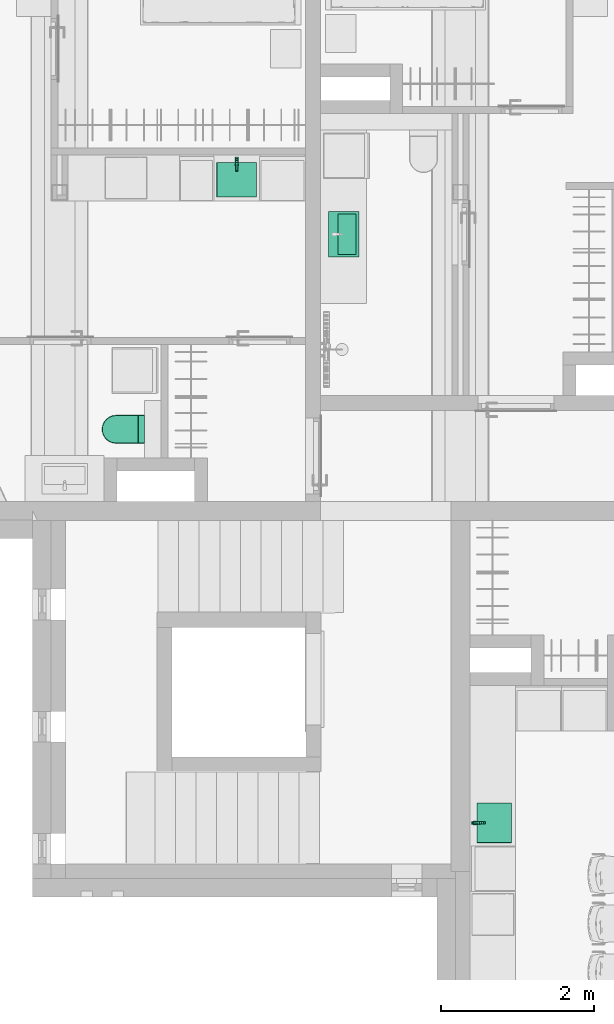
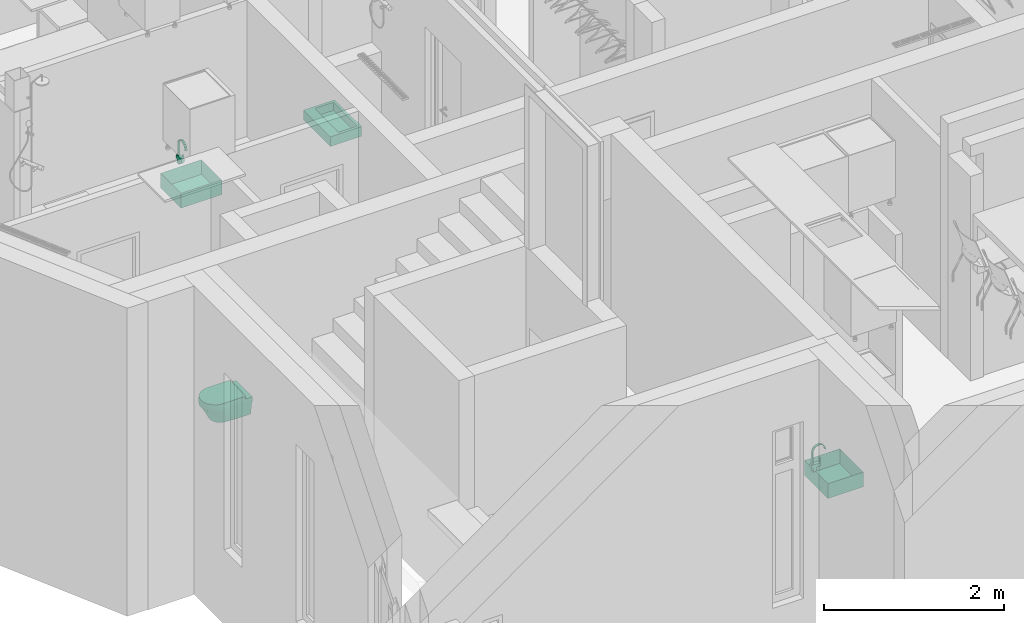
# One storey, part 53 of 125: 6 flow terminals.
"""IFC2X3 building model written with IfcOpenShell, lengths in millimetres."""

import ifcopenshell
import ifcopenshell.guid

model = None  # the IFC model being written
_history = None  # IfcOwnerHistory: only IFC2X3 demands one
_inside = {}  # id of a spatial element -> (the spatial element, [elements in it])
_under = {}  # id of a project, library or spatial element -> (it, [spatial elements below it])
_declared = {}  # id of a project -> (the project, [libraries it declares])
_typed = {}  # id of a type object -> (the type object, [elements of that type])
_made_of = {}  # id of a material, layer set ... -> (it, [elements and type objects made of it])


def new_model(schema):
    """Start an empty IFC model of exactly this schema.

    Asked for "IFC4X3", IfcOpenShell would pick the latest addendum, in which some entities
    have other attributes; the version numbers below select the first issue.
    IFC2X3 requires an IfcOwnerHistory on every rooted entity: one is made here for all.
    """
    global model, _history
    if schema == "IFC4X3":
        model = ifcopenshell.file(schema_version=(4, 3, 0, 0))
    else:
        model = ifcopenshell.file(schema=schema)
    _inside.clear()
    _under.clear()
    _declared.clear()
    _typed.clear()
    _made_of.clear()
    _history = None
    if model.schema == "IFC2X3":
        org = make("IfcOrganization", Name="unknown")
        user = make(
            "IfcPersonAndOrganization",
            ThePerson=make("IfcPerson", FamilyName="unknown"),
            TheOrganization=org,
        )
        app = make(
            "IfcApplication",
            ApplicationDeveloper=org,
            Version="unknown",
            ApplicationFullName="unknown",
            ApplicationIdentifier="unknown",
        )
        _history = make(
            "IfcOwnerHistory",
            OwningUser=user,
            OwningApplication=app,
            ChangeAction="ADDED",
            CreationDate=0,
        )
    return model


def make(cls, **values):
    """One entity of the class cls with the attributes given. An attribute that is None is left unset."""
    return model.create_entity(
        cls, **{name: value for name, value in values.items() if value is not None}
    )


def entity(cls, *values):
    """Any entity or typed value of the class cls, its attributes in the order of the schema. None: left unset."""
    e = model.create_entity(cls)
    for i, value in enumerate(values):
        if value is not None:
            e[i] = value
    return e


def rooted(cls, **values):
    """An entity with a GlobalId (a new one), such as an element, a storey or a relation."""
    return make(cls, GlobalId=ifcopenshell.guid.new(), OwnerHistory=_history, **values)


def si_unit(unit_type, name, prefix=None):
    """IfcSIUnit, for example si_unit("LENGTHUNIT", "METRE", prefix="MILLI")."""
    return make("IfcSIUnit", UnitType=unit_type, Prefix=prefix, Name=name)


def converted_unit(unit_type, name, factor, base, dimensions=None, offset=None):
    """IfcConversionBasedUnit, such as the inch: factor (a typed value) times the base unit."""
    return make(
        "IfcConversionBasedUnit"
        if offset is None
        else "IfcConversionBasedUnitWithOffset",
        ConversionOffset=offset,
        Dimensions=None
        if dimensions is None
        else entity("IfcDimensionalExponents", *dimensions),
        UnitType=unit_type,
        Name=name,
        ConversionFactor=make(
            "IfcMeasureWithUnit", ValueComponent=factor, UnitComponent=base
        ),
    )


def assignment(units):
    """IfcUnitAssignment: the units of a project."""
    return None if units is None else make("IfcUnitAssignment", Units=units)


def point(xyz):
    """IfcCartesianPoint."""
    return None if xyz is None else make("IfcCartesianPoint", Coordinates=xyz)


def direction(xyz):
    """IfcDirection."""
    return None if xyz is None else make("IfcDirection", DirectionRatios=xyz)


def frame(location, z_axis=None, x_axis=None):
    """IfcAxis2Placement3D, a coordinate frame: its origin and axes. An axis left out is left unset."""
    return make(
        "IfcAxis2Placement3D",
        Location=point(location),
        Axis=direction(z_axis),
        RefDirection=direction(x_axis),
    )


def origin():
    """The frame at (0, 0, 0) with its axes left unset."""
    return frame((0.0, 0.0, 0.0))


def place(relative_to, where):
    """IfcLocalPlacement: puts the frame where relative to a parent placement (None: the world)."""
    return make(
        "IfcLocalPlacement", PlacementRelTo=relative_to, RelativePlacement=where
    )


def context(
    kind, dimensions, precision=None, world=None, true_north=None, identifier=None
):
    """IfcGeometricRepresentationContext, for example the 3D "Model" context."""
    return make(
        "IfcGeometricRepresentationContext",
        ContextIdentifier=identifier,
        ContextType=kind,
        CoordinateSpaceDimension=dimensions,
        Precision=precision,
        WorldCoordinateSystem=world,
        TrueNorth=true_north,
    )


def subcontext(parent, identifier, kind, view, scale=None):
    """IfcGeometricRepresentationSubContext, for example "Body" below "Model"."""
    return make(
        "IfcGeometricRepresentationSubContext",
        ContextIdentifier=identifier,
        ContextType=kind,
        ParentContext=parent,
        TargetScale=scale,
        TargetView=view,
    )


def project(units=None, contexts=None):
    """IfcProject with its units and contexts."""
    return rooted(
        "IfcProject",
        Name="project",
        RepresentationContexts=contexts,
        UnitsInContext=assignment(units),
    )


def spatial(cls, under=None, at=None, **own):
    """A site, building, storey or space (cls), placed at a placement, below another one or the project."""
    s = rooted(cls, ObjectPlacement=at, **own)
    if under is not None:
        _under.setdefault(under.id(), (under, []))[1].append(s)
    return s


def faces_of(points, faces, orient=None, outer=None):
    """IfcFace entities. A face is a list of loops; a loop is a list of indices into points, from 0.

    orient and outer hold one flag for each loop. By default every Orientation is true, the
    first loop of a face is its IfcFaceOuterBound and the others are IfcFaceBound.
    """
    made = []
    for i, loops in enumerate(faces):
        bounds = []
        for j, loop in enumerate(loops):
            is_outer = j == 0 if outer is None else outer[i][j]
            bounds.append(
                make(
                    "IfcFaceOuterBound" if is_outer else "IfcFaceBound",
                    Bound=make("IfcPolyLoop", Polygon=[points[k] for k in loop]),
                    Orientation=True if orient is None else orient[i][j],
                )
            )
        made.append(make("IfcFace", Bounds=bounds))
    return made


def faceted_brep(points, faces, orient=None, outer=None, voids=None):
    """IfcFacetedBrep: a solid bounded by flat faces; with voids (closed shells), ...WithVoids."""
    shared = [point(p) for p in points]
    hull = make("IfcClosedShell", CfsFaces=faces_of(shared, faces, orient, outer))
    if voids is None:
        return make("IfcFacetedBrep", Outer=hull)
    return make(
        "IfcFacetedBrepWithVoids",
        Outer=hull,
        Voids=[
            make(cls, CfsFaces=faces_of(shared, fs, o, b)) for cls, fs, o, b in voids
        ],
    )


def shape(context_of_items, identifier, shape_type, items):
    """IfcShapeRepresentation: the items that make up one representation, for example the "Body"."""
    return make(
        "IfcShapeRepresentation",
        ContextOfItems=context_of_items,
        RepresentationIdentifier=identifier,
        RepresentationType=shape_type,
        Items=items,
    )


def source(mapping_origin, context_of_items, identifier, shape_type, items):
    """IfcRepresentationMap: a shape defined once, which mapped items show again and again."""
    return make(
        "IfcRepresentationMap",
        MappingOrigin=mapping_origin,
        MappedRepresentation=shape(context_of_items, identifier, shape_type, items),
    )


def transform(
    local_origin,
    x_axis=None,
    y_axis=None,
    z_axis=None,
    scale=None,
    scale2=None,
    scale3=None,
    uniform=True,
):
    """IfcCartesianTransformationOperator3D, or its non-uniform kind. x_axis, y_axis, z_axis: its Axis1, 2, 3."""
    if uniform:
        return make(
            "IfcCartesianTransformationOperator3D",
            Axis1=direction(x_axis),
            Axis2=direction(y_axis),
            LocalOrigin=point(local_origin),
            Scale=scale,
            Axis3=direction(z_axis),
        )
    return make(
        "IfcCartesianTransformationOperator3DnonUniform",
        Axis1=direction(x_axis),
        Axis2=direction(y_axis),
        LocalOrigin=point(local_origin),
        Scale=scale,
        Axis3=direction(z_axis),
        Scale2=scale2,
        Scale3=scale3,
    )


def mapped(mapping_source, mapping_target):
    """IfcMappedItem: shows the shape of a source again, moved by a transform."""
    return make(
        "IfcMappedItem", MappingSource=mapping_source, MappingTarget=mapping_target
    )


def material(Name=None, Category=None):
    """IfcMaterial."""
    return make("IfcMaterial", Name=Name, Category=Category)


def made_of(thing, what):
    """Note that an element or type object is made of a material, layer set ...; save() writes the relation."""
    if what is not None:
        _made_of.setdefault(what.id(), (what, []))[1].append(thing)
    return thing


def type_object(cls, material=None, **own):
    """A type object (cls), such as IfcWallType, which elements share."""
    return made_of(rooted(cls, **own), material)


def type_shapes(of_type, sources):
    """Give a type object the sources (RepresentationMaps) that its elements show as mapped items."""
    of_type.RepresentationMaps = sources


def element(
    cls,
    number,
    at=None,
    inside=None,
    cuts=None,
    type_object=None,
    material=None,
    context=None,
    identifier="Body",
    shape_type=None,
    held_by="IfcProductDefinitionShape",
    body=None,
    shapes=None,
    **own,
):
    """One element of the class cls, such as IfcWall. Its Tag is "e" and its number.

    at: its placement. inside: the storey or other place that contains it. cuts: it is an
    opening in that element (IfcRelVoidsElement). A single representation is given by context,
    identifier, shape_type and body (its items); several are given by shapes. held_by: the class
    of the entity that holds the representations. save() writes the other relations.
    """
    e = rooted(cls, Tag="e%d" % number, ObjectPlacement=at, **own)
    if body is not None:
        shapes = [shape(context, identifier, shape_type, body)]
    if shapes is not None:
        e.Representation = make(held_by, Representations=shapes)
    if inside is not None:
        _inside.setdefault(inside.id(), (inside, []))[1].append(e)
    if cuts is not None:
        rooted(
            "IfcRelVoidsElement", RelatingBuildingElement=cuts, RelatedOpeningElement=e
        )
    if type_object is not None:
        _typed.setdefault(type_object.id(), (type_object, []))[1].append(e)
    return made_of(e, material)


def aggregate(whole, parts):
    """IfcRelAggregates: a whole, such as a stair, and the parts it consists of."""
    return rooted("IfcRelAggregates", RelatingObject=whole, RelatedObjects=parts)


def save(model, path):
    """Write the relations noted so far, then the file.

    IfcRelAggregates (storeys below a building ...), IfcRelContainedInSpatialStructure (elements
    in a storey), IfcRelDefinesByType, IfcRelAssociatesMaterial and IfcRelDeclares: one each for
    every whole, place, type object, material and project.
    """
    for whole, parts in _under.values():
        aggregate(whole, parts)
    for where, things in _inside.values():
        rooted(
            "IfcRelContainedInSpatialStructure",
            RelatedElements=things,
            RelatingStructure=where,
        )
    for kind, things in _typed.values():
        rooted("IfcRelDefinesByType", RelatedObjects=things, RelatingType=kind)
    for what, things in _made_of.values():
        rooted("IfcRelAssociatesMaterial", RelatedObjects=things, RelatingMaterial=what)
    for by, libraries in _declared.values():
        rooted("IfcRelDeclares", RelatingContext=by, RelatedDefinitions=libraries)
    model.write(path)


model = new_model("IFC2X3")

# Units and contexts
model_context = context("Model", 3, precision=0.01, world=origin(), true_north=direction((6.123233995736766e-17, 1.0)))
plan_context = context("Plan", 3, precision=0.01, world=origin(), true_north=direction((6.123233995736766e-17, 1.0)))
body_context = subcontext(model_context, "Body", "Model", "MODEL_VIEW")
ifc_project = project(units=[si_unit("LENGTHUNIT", "METRE", prefix="MILLI"), converted_unit("PLANEANGLEUNIT", "DEGREE", entity("IfcPlaneAngleMeasure", 0.017453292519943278), si_unit("PLANEANGLEUNIT", "RADIAN"), dimensions=[0, 0, 0, 0, 0, 0, 0]), si_unit("AREAUNIT", "SQUARE_METRE")], contexts=[model_context, plan_context])

# Site, building, storey, space
site_placement = place(None, origin())
site = spatial("IfcSite", under=ifc_project, at=site_placement, Name="Default", CompositionType="ELEMENT")
building_placement = place(site_placement, origin())
building = spatial("IfcBuilding", under=site, at=building_placement, CompositionType="ELEMENT")
storey_placement = place(building_placement, frame((0.0, 0.0, 3125.0)))
storey = spatial("IfcBuildingStorey", under=building, at=storey_placement, Name="2K", CompositionType="ELEMENT", Elevation=3125.0)
space_1_placement = place(storey_placement, origin())
space_1 = spatial("IfcSpace", under=storey, at=space_1_placement, Name="2-1.4", CompositionType="ELEMENT", InteriorOrExteriorSpace="INTERNAL")

# Flow terminal
ifc_material = material(Name="<Unnamed>")
distribution_element_type_1 = type_object("IfcDistributionElementType", Name="HR_Plumbing-fixtures_Toilet_Generic_v3:Default", material=ifc_material)
shared_shape_1 = source(origin(), body_context, "Body", "Brep", [
    faceted_brep([(185.0, 375.0, -3940.0), (185.0, 100.0, -3940.0), (184.31851652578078, 94.82361909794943, -3940.0), (182.32050807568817, 90.0, -3940.0), (179.14213562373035, 85.85786437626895, -3940.0), (175.0, 82.67949192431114, -3940.0), (170.17638090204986, 80.68148347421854, -3940.0), (165.0, 80.0, -3940.0), (-165.0, 80.0, -3940.0), (-170.17638090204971, 80.68148347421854, -3940.0), (-175.0, 82.67949192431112, -3940.0), (-179.14213562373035, 85.85786437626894, -3940.0), (-182.32050807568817, 90.0, -3940.0), (-184.31851652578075, 94.82361909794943, -3940.0), (-185.0, 100.0, -3940.0), (-185.0, 375.0, -3940.0), (-178.6962778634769, 422.8815233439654, -3940.0), (-160.21469970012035, 467.49999999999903, -3940.0), (-130.81475451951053, 505.81475451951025, -3940.0), (-92.4999999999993, 535.21469970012, -3940.0), (-47.8815233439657, 553.6962778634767, -3940.0), (0.0, 560.0, -3940.0), (47.88152334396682, 553.6962778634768, -3940.0), (92.50000000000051, 535.2146997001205, -3940.0), (130.81475451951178, 505.8147545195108, -3940.0), (160.2146997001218, 467.4999999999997, -3940.0), (178.69627786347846, 422.8815233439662, -3940.0), (165.0, 85.0, -3905.0), (168.88228567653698, 85.51111260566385, -3905.0), (172.4999999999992, 87.00961894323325, -3905.0), (175.60660171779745, 89.39339828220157, -3905.0), (177.99038105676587, 92.49999999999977, -3905.0), (179.48888739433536, 96.11771432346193, -3905.0), (180.0, 100.0, -3905.0), (180.0, 375.0, -3905.0), (173.86664873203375, 421.5874281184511, -3905.0), (155.88457268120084, 465.0, -3905.0), (127.27922061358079, 502.27922061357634, -3905.0), (90.0, 530.884572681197, -3905.0), (46.58742811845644, 548.8666487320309, -3905.0), (0.0, 555.0, -3905.0), (-46.58742811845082, 548.8666487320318, -3905.0), (-90.0, 530.8845726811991, -3905.0), (-127.27922061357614, 502.2792206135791, -3905.0), (-155.88457268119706, 465.0, -3905.0), (-173.8666487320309, 421.58742811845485, -3905.0), (-180.0, 375.0, -3905.0), (-180.0, 100.0, -3905.0), (-179.4888873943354, 96.11771432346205, -3905.0), (-177.99038105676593, 92.49999999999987, -3905.0), (-175.6066017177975, 89.39339828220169, -3905.0), (-172.49999999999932, 87.00961894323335, -3905.0), (-168.88228567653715, 85.51111260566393, -3905.0), (-165.0, 85.0, -3905.0)], [[[0, 1, 2, 3, 4, 5, 6, 7, 8, 9, 10, 11, 12, 13, 14, 15, 16, 17, 18, 19, 20, 21, 22, 23, 24, 25, 26]], [[27, 28, 29, 30, 31, 32, 33, 34, 35, 36, 37, 38, 39, 40, 41, 42, 43, 44, 45, 46, 47, 48, 49, 50, 51, 52, 53]], [[13, 48, 47, 14]], [[49, 12, 11, 50]], [[48, 13, 12, 49]], [[52, 51, 10, 9]], [[53, 52, 9, 8]], [[10, 51, 50, 11]], [[7, 27, 53, 8]], [[6, 28, 27, 7]], [[29, 5, 4, 30]], [[28, 6, 5, 29]], [[32, 31, 3, 2]], [[33, 32, 2, 1]], [[3, 31, 30, 4]], [[0, 34, 33, 1]], [[34, 0, 26, 35]], [[35, 26, 25, 36]], [[38, 37, 24, 23]], [[24, 37, 36, 25]], [[39, 38, 23, 22]], [[39, 22, 21, 40]], [[20, 41, 40, 21]], [[45, 44, 17, 16]], [[43, 18, 17, 44]], [[45, 16, 15, 46]], [[19, 42, 41, 20]], [[19, 18, 43, 42]], [[47, 46, 15, 14]]]),
    faceted_brep([(158.04963619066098, 466.24999999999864, -4000.0), (176.28146329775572, 422.2344757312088, -4000.0), (182.5000000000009, 375.0, -4000.0), (182.5000000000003, 0.0, -4000.0), (-182.49999999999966, 0.0, -4000.0), (-182.49999999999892, 375.0, -4000.0), (-176.2814632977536, 422.23447573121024, -4000.0), (-158.04963619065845, 466.25, -4000.0), (-129.04698756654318, 504.0469875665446, -4000.0), (-91.2499999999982, 533.0496361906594, -4000.0), (-47.23447573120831, 551.281463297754, -4000.0), (0.0, 557.4999999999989, -4000.0), (47.23447573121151, 551.2814632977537, -4000.0), (91.25000000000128, 533.0496361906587, -4000.0), (129.04698756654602, 504.0469875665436, -4000.0), (-176.28146329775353, 422.23447573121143, -3940.0), (-182.49999999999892, 375.0, -3940.0), (-182.49999999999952, 0.0, -3940.0), (182.50000000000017, 0.0, -3940.0), (182.50000000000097, 375.0, -3940.0), (176.2814632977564, 422.23447573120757, -3940.0), (158.04963619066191, 466.24999999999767, -3940.0), (129.04698756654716, 504.04698756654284, -3940.0), (91.25000000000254, 533.0496361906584, -3940.0), (47.23447573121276, 551.2814632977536, -3940.0), (0.0, 557.4999999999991, -3940.0), (-47.23447573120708, 551.2814632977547, -3940.0), (-91.24999999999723, 533.0496361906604, -3940.0), (-129.04698756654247, 504.0469875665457, -3940.0), (-158.0496361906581, 466.25000000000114, -3940.0), (184.3739186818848, 0.0, -3985.051993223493), (185.0, 0.0, -3970.0), (184.37391868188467, 0.0, -3954.9480067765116), (-184.37391868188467, 0.0, -3954.9480067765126), (-185.0, 0.0, -3970.0), (-184.37391868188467, 0.0, -3985.051993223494), (185.0, 375.0, -3970.0), (184.37391868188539, 375.0, -3954.9480067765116), (184.37391868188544, 375.0, -3985.051993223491), (179.22193525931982, 420.2391964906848, -3962.467496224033), (146.12425609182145, 487.1250848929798, -3987.162723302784), (112.36452390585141, 521.4362980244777, -3982.347722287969), (-24.092382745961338, 557.9998161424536, -3957.652277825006), (-70.79643453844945, 545.9177137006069, -3969.999999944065), (165.88140661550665, 456.6493815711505, -3963.605381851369), (170.61476036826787, 445.67094705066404, -3980.89777177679), (146.7703673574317, 487.6208651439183, -3969.999999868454), (112.4934291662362, 521.6042920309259, -3961.29138681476), (70.79643457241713, 545.9177136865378, -3969.9999999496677), (-170.6147602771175, 445.67094700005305, -3980.8977734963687), (-146.12425609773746, 487.12508488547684, -3987.1627233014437), (70.4847752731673, 545.1653000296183, -3987.16272333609), (24.092382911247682, 557.9998161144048, -3982.3477222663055), (-146.77036734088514, 487.62086516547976, -3969.999999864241), (-165.88140640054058, 456.6493822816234, -3963.605385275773), (24.120021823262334, 558.2097557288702, -3961.2913867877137), (-24.120022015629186, 558.20975569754, -3978.7086133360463), (180.8695297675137, 411.23491834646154, -3983.9362692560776), (-112.36452329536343, 521.4362985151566, -3957.652277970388), (-112.4934298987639, 521.6042914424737, -3978.708613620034), (-70.48477528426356, 545.1653000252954, -3987.1627233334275), (-184.3739188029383, 375.0, -3954.948008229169), (-179.2219343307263, 420.239200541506, -3962.4674984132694), (-185.0, 375.0, -3970.0000029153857), (-184.3739185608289, 375.0, -3985.0519946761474), (-181.40133300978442, 410.0856400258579, -3979.2616608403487)], [[[0, 1, 2, 3, 4, 5, 6, 7, 8, 9, 10, 11, 12, 13, 14]], [[15, 16, 17, 18, 19, 20, 21, 22, 23, 24, 25, 26, 27, 28, 29]], [[4, 3, 30, 31, 32, 18, 17, 33, 34, 35]], [[32, 31, 36, 37]], [[32, 37, 19, 18]], [[30, 3, 2, 38]], [[30, 38, 36, 31]], [[37, 39, 20]], [[40, 14, 41]], [[20, 19, 37]], [[26, 42, 43]], [[44, 45, 46]], [[47, 41, 48]], [[48, 24, 23]], [[7, 49, 50]], [[47, 22, 46]], [[51, 12, 52]], [[21, 46, 22]], [[53, 49, 54]], [[55, 52, 56]], [[48, 52, 55]], [[36, 57, 39]], [[28, 58, 53]], [[11, 10, 56]], [[57, 38, 2]], [[37, 36, 39]], [[59, 58, 43]], [[7, 6, 49]], [[14, 13, 41]], [[12, 51, 13]], [[45, 57, 1]], [[14, 40, 0]], [[45, 1, 0]], [[47, 46, 41]], [[39, 57, 45]], [[24, 48, 55]], [[56, 42, 55]], [[26, 43, 27]], [[39, 45, 44]], [[58, 28, 27]], [[9, 59, 60]], [[27, 43, 58]], [[28, 53, 29]], [[61, 16, 15]], [[11, 56, 52]], [[61, 62, 63]], [[47, 48, 23]], [[41, 51, 48]], [[15, 54, 62]], [[42, 25, 55]], [[62, 61, 15]], [[64, 63, 65]], [[56, 60, 43]], [[55, 25, 24]], [[50, 53, 59]], [[60, 10, 9]], [[47, 23, 22]], [[62, 49, 65]], [[7, 50, 8]], [[49, 62, 54]], [[64, 6, 5]], [[42, 26, 25]], [[58, 59, 53]], [[49, 6, 65]], [[44, 21, 20]], [[11, 52, 12]], [[42, 56, 43]], [[46, 45, 40]], [[59, 9, 8]], [[39, 44, 20]], [[44, 46, 21]], [[54, 29, 53]], [[29, 54, 15]], [[13, 51, 41]], [[48, 51, 52]], [[0, 40, 45]], [[46, 40, 41]], [[10, 60, 56]], [[43, 60, 59]], [[8, 50, 59]], [[53, 50, 49]], [[1, 57, 2]], [[36, 38, 57]], [[62, 65, 63]], [[64, 65, 6]], [[16, 61, 33]], [[16, 33, 17]], [[33, 61, 34]], [[61, 63, 34]], [[64, 5, 4]], [[64, 35, 63]], [[35, 64, 4]], [[63, 35, 34]]]),
    faceted_brep([(85.0, 522.224318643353, -4000.0), (43.99923766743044, 539.2073904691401, -4000.0), (0.0, 545.0, -4000.0), (-43.99923766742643, 539.2073904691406, -4000.0), (-85.0, 522.2243186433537, -4000.0), (-120.20815280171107, 495.2081528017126, -4000.0), (-147.22431864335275, 460.0, -4000.0), (-164.20739046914, 418.9992376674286, -4000.0), (-170.0, 375.0, -4000.0), (-170.0, 0.0, -4000.0), (170.0, 0.0, -4000.0), (170.0, 375.0, -4000.0), (164.2073904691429, 418.99923766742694, -4000.0), (147.224318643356, 460.0, -4000.0), (120.20815280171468, 495.20815280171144, -4000.0), (140.0, 0.0, -4200.0), (-140.0, 0.0, -4200.0), (-140.0, 150.0, -4200.0), (-138.62980634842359, 195.25787346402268, -4200.0), (-137.25961308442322, 240.51573412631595, -4200.0), (-133.15405183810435, 285.6078202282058, -4200.0), (-129.04849039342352, 330.69990850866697, -4200.0), (-121.54313718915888, 361.12229181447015, -4200.0), (-106.97640292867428, 388.86507440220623, -4200.0), (-86.1945818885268, 412.3164634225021, -4200.0), (-60.40505081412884, 430.11398627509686, -4200.0), (-31.106123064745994, 441.2236471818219, -4200.0), (0.0, 445.0, -4200.0), (31.106123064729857, 441.2236471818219, -4200.0), (60.40505081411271, 430.1139862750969, -4200.0), (86.19458188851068, 412.3164634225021, -4200.0), (106.97640292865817, 388.86507440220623, -4200.0), (121.54313718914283, 361.12229181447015, -4200.0), (129.04849039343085, 330.69990850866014, -4200.0), (133.15405231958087, 285.60781494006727, -4200.0), (137.25961308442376, 240.51573412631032, -4200.0), (138.629806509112, 195.25786815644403, -4200.0), (140.0, 150.0, -4200.0), (150.60660238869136, 229.54951791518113, -4129.289317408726), (160.30330119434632, 302.2747589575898, -4064.6446587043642), (155.52145288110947, 359.3375502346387, -4070.710688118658), (143.52703751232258, 346.36235827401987, -4129.289311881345), (155.38792293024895, 359.1931016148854, -4071.362825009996), (136.07910358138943, 407.7451780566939, -4100.000018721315), (144.4628484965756, 378.65444268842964, -4105.413468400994), (88.6637225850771, 465.93257853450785, -4100.000001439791), (116.08235687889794, 439.8543237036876, -4100.000003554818), (-146.76963007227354, 381.58655237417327, -4094.5865394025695), (-136.0791098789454, 407.7451788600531, -4100.000000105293), (-143.66056550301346, 346.5068047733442, -4128.637184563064), (-156.76351819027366, 360.6811785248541, -4064.644658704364), (55.573859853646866, 484.30716171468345, -4100.000000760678), (18.928354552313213, 493.79904274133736, -4099.999999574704), (-55.573860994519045, 484.3071615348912, -4100.00000022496), (-18.928355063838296, 493.79904230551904, -4100.000000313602), (-143.52703638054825, 346.36235704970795, -4129.289317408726), (-88.66372427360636, 465.9325779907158, -4100.000000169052), (-116.08235986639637, 439.8543221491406, -4100.000000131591), (-159.3933967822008, 295.45047586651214, -4070.7106881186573), (-150.6066032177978, 229.54952413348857, -4129.2893118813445)], [[[0, 1, 2, 3, 4, 5, 6, 7, 8, 9, 10, 11, 12, 13, 14]], [[15, 16, 17, 18, 19, 20, 21, 22, 23, 24, 25, 26, 27, 28, 29, 30, 31, 32, 33, 34, 35, 36, 37]], [[10, 15, 37, 38, 39, 11]], [[36, 35, 39, 38, 37]], [[39, 40, 11]], [[35, 40, 39]], [[34, 33, 41, 42, 40, 35]], [[13, 12, 43]], [[32, 44, 33]], [[32, 31, 43]], [[44, 12, 42]], [[45, 30, 29]], [[45, 46, 30]], [[22, 47, 48]], [[30, 46, 31]], [[47, 49, 50, 8]], [[28, 51, 29]], [[46, 43, 31]], [[43, 44, 32]], [[12, 11, 40, 42]], [[51, 45, 29]], [[14, 45, 0]], [[13, 43, 46]], [[28, 27, 52]], [[14, 46, 45]], [[45, 51, 0]], [[0, 51, 1]], [[1, 51, 52]], [[52, 51, 28]], [[52, 2, 1]], [[13, 46, 14]], [[53, 26, 25]], [[2, 54, 3]], [[22, 21, 55, 49]], [[24, 56, 25]], [[48, 23, 22]], [[5, 57, 6]], [[48, 57, 23]], [[24, 23, 57]], [[47, 7, 48]], [[8, 7, 47]], [[26, 54, 27]], [[3, 54, 53]], [[56, 53, 25]], [[2, 52, 54]], [[57, 56, 24]], [[4, 53, 56]], [[22, 49, 47]], [[5, 56, 57]], [[57, 48, 6]], [[4, 56, 5]], [[53, 54, 26]], [[3, 53, 4]], [[6, 48, 7]], [[12, 44, 43]], [[44, 42, 41, 33]], [[54, 52, 27]], [[20, 19, 50, 49, 55, 21]], [[50, 58, 8]], [[19, 58, 50]], [[18, 17, 59, 58, 19]], [[9, 8, 58, 59, 17, 16]], [[9, 16, 15, 10]]]),
])
type_shapes(distribution_element_type_1, [shared_shape_1])
flow_terminal_1_placement = place(space_1_placement, frame((1039.9935349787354, 7595.0, 4340.0), z_axis=(0.0, 0.0, 1.0), x_axis=(0.0, 1.0, 0.0)))
element("IfcFlowTerminal", 1, at=flow_terminal_1_placement, inside=space_1, type_object=distribution_element_type_1, material=ifc_material, Name="HR_Plumbing-fixtures_Toilet_Generic_v3:Default", ObjectType="HR_Plumbing-fixtures_Toilet_Generic_v3:Default", context=body_context, shape_type="MappedRepresentation", body=[
    mapped(shared_shape_1, transform((0.0, 0.0, 0.0), scale=1.0)),
])

# Space
space_2_placement = place(storey_placement, origin())
space_2 = spatial("IfcSpace", under=storey, at=space_2_placement, Name="2-1.2", CompositionType="ELEMENT", InteriorOrExteriorSpace="INTERNAL")

# Flow terminal
distribution_element_type_2 = type_object("IfcDistributionElementType", Name="HR_Plumbing-fixtures_Sink_Generic_Kitchen_v1:Default", material=ifc_material)
shared_shape_2 = source(origin(), body_context, "Body", "Brep", [
    faceted_brep([(260.0, -50.0, -3825.0), (260.0, -500.0, -3825.0), (-260.0, -500.0, -3825.0), (-260.0, -50.0, -3825.0), (262.0, -48.0, -3825.0), (-262.0, -48.0, -3825.0), (-262.0, -502.0, -3825.0), (262.0, -502.0, -3825.0), (262.0, -48.0, -4025.0), (262.0, -502.0, -4025.0), (-262.0, -502.0, -4025.0), (-262.0, -48.0, -4025.0), (260.0, -50.0, -4023.0), (260.0, -500.0, -4023.0), (-260.0, -500.0, -4023.0), (-260.0, -50.0, -4023.0)], [[[0, 1, 2, 3], [4, 5, 6, 7]], [[8, 9, 10, 11]], [[1, 0, 12, 13]], [[2, 1, 13, 14]], [[3, 2, 14, 15]], [[0, 3, 15, 12]], [[5, 4, 8, 11]], [[6, 5, 11, 10]], [[7, 6, 10, 9]], [[4, 7, 9, 8]], [[13, 12, 15, 14]]], outer=[[False, True], [True], [True], [True], [True], [True], [True], [True], [True], [True], [True]]),
])
type_shapes(distribution_element_type_2, [shared_shape_2])
flow_terminal_2_placement = place(space_2_placement, frame((2244.993534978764, 10587.0, 4695.0), z_axis=(0.0, 0.0, 1.0), x_axis=(-1.0, 0.0, 0.0)))
element("IfcFlowTerminal", 2, at=flow_terminal_2_placement, inside=space_2, type_object=distribution_element_type_2, material=ifc_material, Name="HR_Plumbing-fixtures_Sink_Generic_Kitchen_v1:Default", ObjectType="HR_Plumbing-fixtures_Sink_Generic_Kitchen_v1:Default", context=body_context, shape_type="MappedRepresentation", body=[
    mapped(shared_shape_2, transform((0.0, 0.0, 0.0), scale=1.0)),
])

# Space
space_3_placement = place(storey_placement, origin())
space_3 = spatial("IfcSpace", under=storey, at=space_3_placement, Name="2-4.2", CompositionType="ELEMENT", InteriorOrExteriorSpace="INTERNAL")

# Flow terminals
flow_terminal_3_placement = place(space_3_placement, frame((5894.9950608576, 2440.0, 4695.0), z_axis=(0.0, 0.0, 1.0), x_axis=(0.0, -1.0, 0.0)))
element("IfcFlowTerminal", 3, at=flow_terminal_3_placement, inside=space_3, type_object=distribution_element_type_2, material=ifc_material, Name="HR_Plumbing-fixtures_Sink_Generic_Kitchen_v1:Default", ObjectType="HR_Plumbing-fixtures_Sink_Generic_Kitchen_v1:Default", context=body_context, shape_type="MappedRepresentation", body=[
    mapped(shared_shape_2, transform((0.0, 0.0, 0.0), scale=1.0)),
])
distribution_element_type_3 = type_object("IfcDistributionElementType", Name="HR_Plumbing-fixtures_Faucet_Generic_v1:Default", material=ifc_material)
shared_shape_3 = source(origin(), body_context, "Body", "Brep", [
    faceted_brep([(-21.0, 45.0, 93.0), (21.0, 45.0, 93.0), (21.0, 71.0, 93.0), (11.500000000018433, 71.0, 93.0), (11.50000000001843, 68.0, 93.0), (-11.49999999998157, 68.0, 93.0), (-11.499999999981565, 71.0, 93.0), (-21.0, 71.0, 93.0), (-21.0, 45.0, 52.0), (-21.0, 71.0, 52.0), (-11.499999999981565, 71.0, 52.0), (-11.49999999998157, 68.0, 52.0), (11.50000000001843, 68.0, 52.0), (11.500000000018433, 71.0, 52.0), (21.0, 71.0, 52.0), (21.0, 45.0, 52.0), (-11.499999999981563, 74.0, 155.0), (-11.499999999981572, 68.0, 155.0), (11.500000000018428, 68.0, 155.0), (11.500000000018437, 74.0, 155.0), (-11.499999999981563, 74.0, 47.0), (11.500000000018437, 74.0, 47.0), (11.500000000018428, 68.0, 47.0), (-11.499999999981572, 68.0, 47.0)], [[[0, 1, 2, 3, 4, 5, 6, 7]], [[8, 9, 10, 11, 12, 13, 14, 15]], [[1, 0, 8, 15]], [[2, 1, 15, 14]], [[2, 14, 13, 3]], [[0, 7, 9, 8]], [[16, 17, 18, 19]], [[20, 21, 22, 23]], [[17, 16, 20, 23, 11, 10, 6, 5]], [[18, 17, 5, 4]], [[19, 18, 4, 3, 13, 12, 22, 21]], [[16, 19, 21, 20]], [[23, 22, 12, 11]], [[9, 7, 6, 10]]]),
    faceted_brep([(15.0, -28.2999999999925, 93.0), (-15.0, -28.299999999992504, 93.0), (-15.0, -18.299999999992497, 93.0), (15.0, -18.299999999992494, 93.0), (15.0, -28.299999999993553, 262.91444034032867), (-15.0, -28.29999999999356, 262.9144403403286), (-15.0, -18.29999999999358, 262.49427421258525), (15.0, -18.299999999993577, 262.49427421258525), (15.0, -24.100059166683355, 278.21407775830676), (15.0, -19.900118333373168, 293.51371517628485), (-15.0, -19.900118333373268, 293.5137151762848), (-15.0, -24.100059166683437, 278.2140777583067), (-15.0, -0.9291565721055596, 318.9494428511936), (-15.0, -10.414637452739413, 306.2315790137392), (15.0, -10.414637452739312, 306.23157901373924), (15.0, -0.9291565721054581, 318.9494428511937), (15.0, 142.33160759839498, 262.51576689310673), (-15.0, 142.33160759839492, 262.51576689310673), (-15.0, 138.20320612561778, 277.83486312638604), (-15.0, 134.07480465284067, 293.15395935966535), (15.0, 134.07480465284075, 293.15395935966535), (15.0, 138.20320612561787, 277.83486312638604), (-15.0, 26.005040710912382, 335.7250992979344), (-15.0, 12.537942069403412, 327.337271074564), (15.0, 12.537942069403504, 327.337271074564), (15.0, 26.005040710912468, 335.7250992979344), (-15.0, 57.19996222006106, 341.5346177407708), (-15.0, 41.60250146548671, 338.6298585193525), (15.0, 41.60250146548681, 338.62985851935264), (15.0, 57.19996222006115, 341.5346177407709), (-15.0, 88.36739590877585, 335.5793923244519), (-15.0, 72.78367906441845, 338.55700503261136), (15.0, 72.78367906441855, 338.55700503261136), (15.0, 88.36739590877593, 335.5793923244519), (-15.0, 124.64885649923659, 305.9160089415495), (-15.0, 115.22290834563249, 318.67805852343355), (15.0, 115.22290834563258, 318.67805852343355), (15.0, 124.64885649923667, 305.9160089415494), (-15.0, 101.79515212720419, 327.1287254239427), (15.0, 101.79515212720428, 327.1287254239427), (-15.0, 142.3316075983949, 249.0), (-15.0, 132.33160759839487, 249.0), (-15.0, 132.3316075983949, 262.11973222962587), (-15.0, 128.64003790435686, 275.58767371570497), (-15.0, 124.94846821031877, 289.05561520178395), (-15.0, 116.61798076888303, 300.2634746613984), (-15.0, 108.28749332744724, 311.4713341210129), (-15.0, 96.45555148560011, 318.88876541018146), (-15.0, 84.623609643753, 326.30619669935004), (-15.0, 70.90577314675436, 328.9204071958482), (-15.0, 57.187936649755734, 331.53461769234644), (-15.0, 43.457269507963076, 328.98865726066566), (-15.0, 29.726602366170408, 326.4426968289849), (-15.0, 17.85792051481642, 319.08419658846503), (-15.0, 5.989238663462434, 311.72569634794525), (-15.0, -2.3968815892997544, 300.55940234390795), (-15.0, -10.783001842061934, 289.3931083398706), (-15.0, -14.541500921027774, 275.9436912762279), (15.0, -10.783001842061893, 289.3931083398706), (15.0, -14.541500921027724, 275.9436912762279), (15.0, 5.989238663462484, 311.7256963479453), (15.0, -2.396881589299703, 300.55940234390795), (15.0, 116.61798076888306, 300.2634746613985), (15.0, 108.28749332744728, 311.47133412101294), (15.0, 124.94846821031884, 289.05561520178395), (15.0, 29.726602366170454, 326.4426968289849), (15.0, 17.857920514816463, 319.08419658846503), (15.0, 57.187936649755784, 331.53461769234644), (15.0, 43.45726950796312, 328.98865726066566), (15.0, 84.62360964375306, 326.30619669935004), (15.0, 70.90577314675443, 328.9204071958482), (15.0, 127.94606568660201, 278.11949025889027), (15.0, 132.33160759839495, 262.11973222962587), (15.0, 96.45555148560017, 318.88876541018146), (15.0, 132.33160759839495, 249.0), (15.0, 142.33160759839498, 249.0)], [[[0, 1, 2, 3]], [[1, 0, 4, 5]], [[3, 2, 6, 7]], [[4, 8, 9, 10, 11, 5]], [[12, 13, 10, 9, 14, 15]], [[16, 17, 18, 19, 20, 21]], [[22, 23, 12, 15, 24, 25]], [[26, 27, 22, 25, 28, 29]], [[30, 31, 26, 29, 32, 33]], [[34, 35, 36, 37, 20, 19]], [[35, 38, 30, 33, 39, 36]], [[17, 40, 41, 42, 43, 44, 45, 46, 47, 48, 49, 50, 51, 52, 53, 54, 55, 56, 57, 6, 2, 1, 5, 11, 10, 13, 12, 23, 22, 27, 26, 31, 30, 38, 35, 34, 19, 18]], [[6, 57, 56, 58, 59, 7]], [[60, 61, 58, 56, 55, 54]], [[62, 63, 46, 45, 44, 64]], [[65, 66, 60, 54, 53, 52]], [[65, 52, 51, 50, 67, 68]], [[69, 70, 67, 50, 49, 48]], [[71, 64, 44, 43, 42, 72]], [[47, 46, 63, 73, 69, 48]], [[72, 74, 75, 16, 21, 20, 37, 36, 39, 33, 32, 29, 28, 25, 24, 15, 14, 9, 8, 4, 0, 3, 7, 59, 58, 61, 60, 66, 65, 68, 67, 70, 69, 73, 63, 62, 64, 71]], [[41, 40, 75, 74]], [[17, 16, 75, 40]], [[72, 42, 41, 74]]]),
    faceted_brep([(-21.0, -43.0, 93.0), (21.0, -43.0, 93.0), (21.0, 43.0, 93.0), (-21.0, 43.0, 93.0), (-21.0, -43.0, 52.0), (-21.0, 43.0, 52.0), (21.0, 43.0, 52.0), (21.0, -43.0, 52.0)], [[[0, 1, 2, 3]], [[4, 5, 6, 7]], [[1, 0, 4, 7]], [[2, 1, 7, 6]], [[3, 2, 6, 5]], [[0, 3, 5, 4]]]),
    faceted_brep([(21.0, -21.0, 52.0), (21.0, 21.0, 52.0), (-21.0, 21.0, 52.0), (-21.0, -21.0, 52.0), (21.0, -21.0, 7.0), (-21.0, -21.0, 7.0), (-21.0, 21.0, 7.0), (21.0, 21.0, 7.0)], [[[0, 1, 2, 3]], [[4, 5, 6, 7]], [[1, 0, 4, 7]], [[2, 1, 7, 6]], [[3, 2, 6, 5]], [[0, 3, 5, 4]]]),
    faceted_brep([(-25.0, 25.0, 7.0), (-25.0, -25.0, 7.0), (25.0, -25.0, 7.0), (25.0, 25.0, 7.0), (-25.0, 25.0, 0.0), (25.0, 25.0, 0.0), (25.0, -25.0, 0.0), (-25.0, -25.0, 0.0)], [[[0, 1, 2, 3]], [[4, 5, 6, 7]], [[1, 0, 4, 7]], [[2, 1, 7, 6]], [[3, 2, 6, 5]], [[0, 3, 5, 4]]]),
])
type_shapes(distribution_element_type_3, [shared_shape_3])
flow_terminal_4_placement = place(space_2_placement, frame((2244.99353497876, 11117.0, 900.0), z_axis=(0.0, 0.0, 1.0), x_axis=(-1.0, 0.0, 0.0)))
element("IfcFlowTerminal", 4, at=flow_terminal_4_placement, inside=space_2, type_object=distribution_element_type_3, material=ifc_material, Name="HR_Plumbing-fixtures_Faucet_Generic_v1:Default", ObjectType="HR_Plumbing-fixtures_Faucet_Generic_v1:Default", context=body_context, shape_type="MappedRepresentation", body=[
    mapped(shared_shape_3, transform((0.0, 0.0, 0.0), scale=1.0)),
])
flow_terminal_5_placement = place(space_3_placement, frame((5364.995060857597, 2440.0, 900.0), z_axis=(0.0, 0.0, 1.0), x_axis=(0.0, -1.0, 0.0)))
element("IfcFlowTerminal", 5, at=flow_terminal_5_placement, inside=space_3, type_object=distribution_element_type_3, material=ifc_material, Name="HR_Plumbing-fixtures_Faucet_Generic_v1:Default", ObjectType="HR_Plumbing-fixtures_Faucet_Generic_v1:Default", context=body_context, shape_type="MappedRepresentation", body=[
    mapped(shared_shape_3, transform((0.0, 0.0, 0.0), scale=1.0)),
])

# Space
space_4_placement = place(storey_placement, origin())
space_4 = spatial("IfcSpace", under=storey, at=space_4_placement, Name="2-2.4", CompositionType="ELEMENT", InteriorOrExteriorSpace="INTERNAL")

# Flow terminal
distribution_element_type_4 = type_object("IfcDistributionElementType", Name="HR_Plumbing-fixtures_Sink_Generic_Bathroom_v1:600 x 400 mm", material=ifc_material)
shared_shape_4 = source(origin(), body_context, "Body", "Brep", [
    faceted_brep([(300.0, 0.0, -3325.0), (-300.0, 0.0, -3325.0), (-300.0, -400.0, -3325.0), (300.0, -400.0, -3325.0), (-265.0, -125.0, -3325.0), (265.0, -125.0, -3325.0), (265.0, -365.0, -3325.0), (-265.0, -365.0, -3325.0), (300.0, 0.0, -3455.0), (300.0, -400.0, -3455.0), (-300.0, -400.0, -3455.0), (-300.0, 0.0, -3455.0), (265.0, -125.0, -3435.0), (-265.0, -125.0, -3435.0), (-265.0, -365.0, -3435.0), (265.0, -365.0, -3435.0)], [[[0, 1, 2, 3], [4, 5, 6, 7]], [[8, 9, 10, 11]], [[1, 0, 8, 11]], [[2, 1, 11, 10]], [[3, 2, 10, 9]], [[0, 3, 9, 8]], [[12, 13, 14, 15]], [[13, 12, 5, 4]], [[14, 13, 4, 7]], [[15, 14, 7, 6]], [[12, 15, 6, 5]]]),
])
type_shapes(distribution_element_type_4, [shared_shape_4])
flow_terminal_6_placement = place(space_4_placement, frame((3444.993534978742, 10150.0, 4925.0), z_axis=(0.0, 0.0, 1.0), x_axis=(0.0, 1.0, 0.0)))
element("IfcFlowTerminal", 6, at=flow_terminal_6_placement, inside=space_4, type_object=distribution_element_type_4, material=ifc_material, Name="HR_Plumbing-fixtures_Sink_Generic_Bathroom_v1:600 x 400 mm", ObjectType="HR_Plumbing-fixtures_Sink_Generic_Bathroom_v1:600 x 400 mm", context=body_context, shape_type="MappedRepresentation", body=[
    mapped(shared_shape_4, transform((0.0, 0.0, 0.0), scale=1.0)),
])

save(model, "model.ifc")
